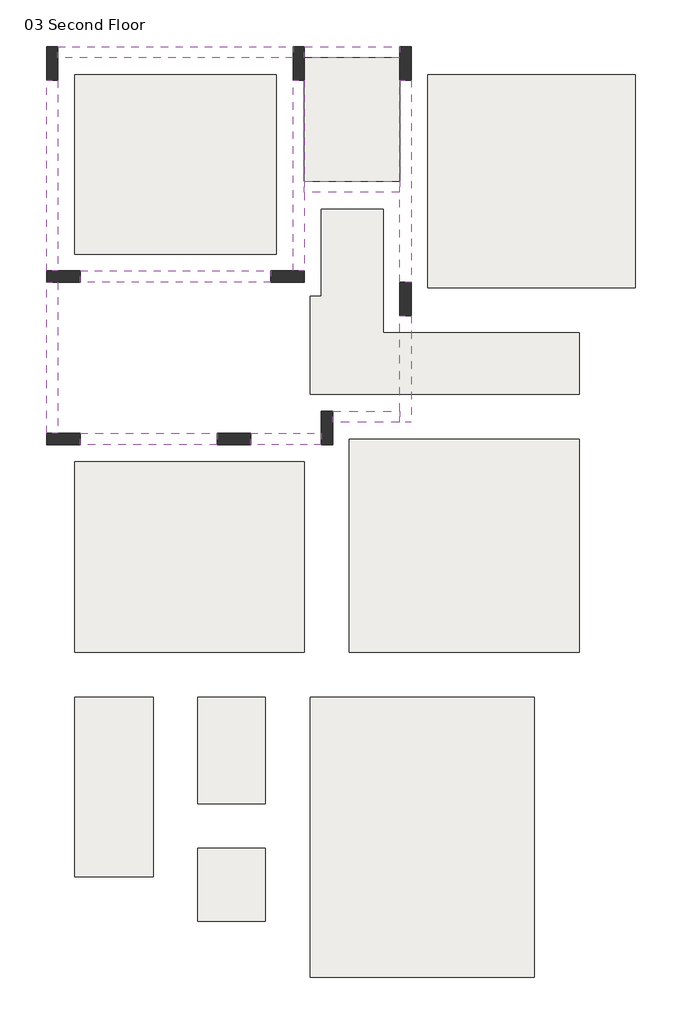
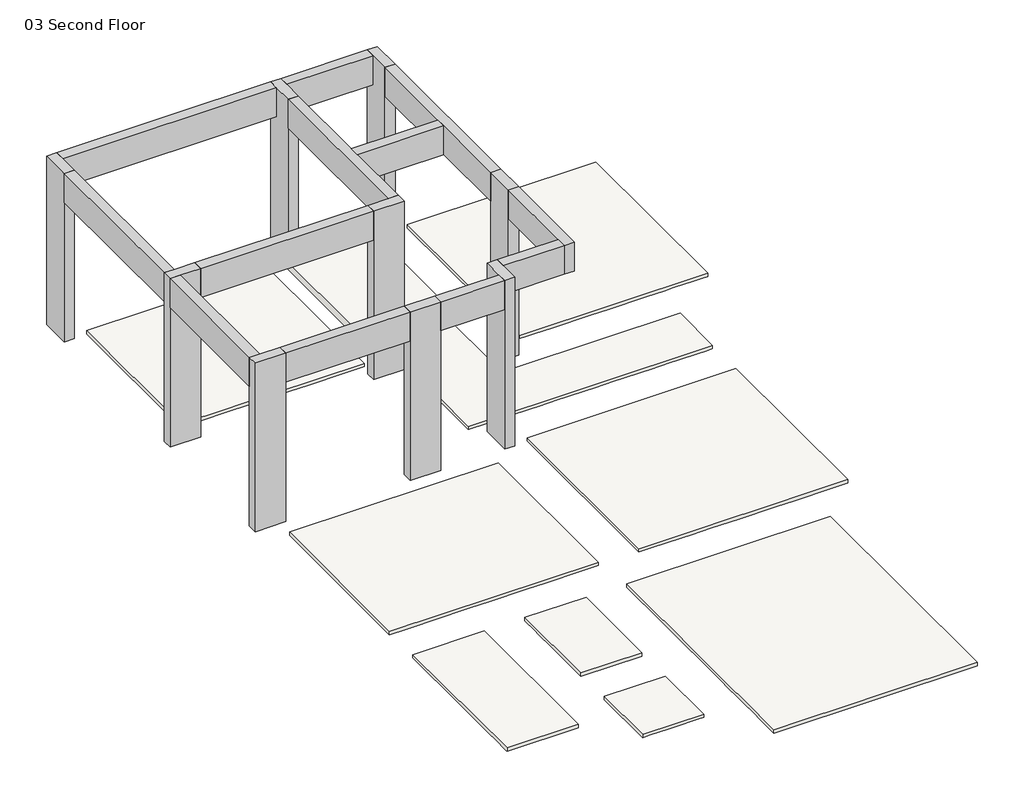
# One storey: 12 beams, 10 slabs, 9 columns.
"""IFC4 building model written with IfcOpenShell, lengths in millimetres."""

from ifc_helpers import new_model, si_unit, frame, origin, place, context, project, spatial, polyline, outline, extrude, faceted_brep, element, save

model = new_model("IFC4")

# Units and contexts
model_context = context("Model", 3, world=origin())
ifc_project = project(units=[si_unit("LENGTHUNIT", "METRE", prefix="MILLI")], contexts=[model_context])

# Site, building, storey
site = spatial("IfcSite", under=ifc_project)
building = spatial("IfcBuilding", under=site)
storey = spatial("IfcBuildingStorey", under=building, Name="03 Second Floor", Elevation=7000.0)

# Beams
placement = place(None, origin())
element("IfcBeam", 1, ObjectType="M_Concrete-Rectangular Beam : DB1- 20 x 60 cm", at=placement, inside=storey, context=model_context, shape_type="Brep", body=[
    faceted_brep([(-1201.9262989, 8244.9958345, 10500.0), (-1201.9262989, 8044.9958345, 10500.0), (498.0737011, 8044.9958345, 10500.0), (498.0737011, 8244.9958345, 10500.0), (-1201.9262989, 8244.9958345, 9900.0), (498.0737011, 8244.9958345, 9900.0), (-1201.9262989, 8044.9958345, 9900.0), (498.0737011, 8044.9958345, 9900.0), (-1201.9262989, 8044.9958345, 10350.0), (498.0737011, 8044.9958345, 10350.0)], [[[0, 1, 2, 3]], [[4, 0, 3, 5]], [[6, 4, 5, 7]], [[1, 8, 6, 7, 9, 2]], [[1, 0, 4, 6, 8]], [[3, 2, 9, 7, 5]]]),
])
element("IfcBeam", 2, ObjectType="M_Concrete-Rectangular Beam : DB1- 20 x 60 cm", at=placement, inside=storey, context=model_context, shape_type="Brep", body=[
    faceted_brep([(-5601.9262989, 8244.9958345, 10500.0), (-5601.9262989, 8044.9958345, 10500.0), (-1401.9262989, 8044.9958345, 10500.0), (-1401.9262989, 8244.9958345, 10500.0), (-5601.9262989, 8244.9958345, 9900.0), (-1401.9262989, 8244.9958345, 9900.0), (-5601.9262989, 8044.9958345, 9900.0), (-1401.9262989, 8044.9958345, 9900.0), (-5601.9262989, 8044.9958345, 10350.0), (-1401.9262989, 8044.9958345, 10350.0)], [[[0, 1, 2, 3]], [[4, 0, 3, 5]], [[6, 4, 5, 7]], [[1, 8, 6, 7, 9, 2]], [[1, 0, 4, 6, 8]], [[3, 2, 9, 7, 5]]]),
])
element("IfcBeam", 3, ObjectType="M_Concrete-Rectangular Beam : DB1- 20 x 60 cm", at=placement, inside=storey, context=model_context, shape_type="Brep", body=[
    faceted_brep([(-5601.9262989, 7644.9958345, 10500.0), (-5801.9262989, 7644.9958345, 10500.0), (-5801.9262989, 4244.9958345, 10500.0), (-5601.9262989, 4244.9958345, 10500.0), (-5801.9262989, 7644.9958345, 9900.0), (-5801.9262989, 4244.9958345, 9900.0), (-5601.9262989, 7644.9958345, 9900.0), (-5601.9262989, 4244.9958345, 9900.0), (-5601.9262989, 4244.9958345, 10350.0)], [[[0, 1, 2, 3]], [[1, 4, 5, 2]], [[4, 6, 7, 5]], [[6, 0, 3, 8, 7]], [[1, 0, 6, 4]], [[3, 2, 5, 7, 8]]]),
])
element("IfcBeam", 4, ObjectType="M_Concrete-Rectangular Beam : DB1- 20 x 60 cm", at=placement, inside=storey, context=model_context, shape_type="Brep", body=[
    faceted_brep([(-1801.9262989, 4044.9958345, 10500.0), (-1801.9262989, 4244.9958345, 10500.0), (-5201.9262989, 4244.9958345, 10500.0), (-5201.9262989, 4044.9958345, 10500.0), (-5201.9262989, 4044.9958345, 10350.0), (-5201.9262989, 4044.9958345, 9900.0), (-1801.9262989, 4044.9958345, 9900.0), (-1801.9262989, 4044.9958345, 10350.0), (-1801.9262989, 4244.9958345, 9900.0), (-5201.9262989, 4244.9958345, 9900.0)], [[[0, 1, 2, 3]], [[0, 3, 4, 5, 6, 7]], [[8, 6, 5, 9]], [[1, 8, 9, 2]], [[1, 0, 7, 6, 8]], [[3, 2, 9, 5, 4]]]),
])
element("IfcBeam", 5, ObjectType="M_Concrete-Rectangular Beam : DB1- 20 x 60 cm", at=placement, inside=storey, context=model_context, shape_type="SweptSolid", body=[
    extrude(outline(polyline([(-5201.9262989, 1144.9958345), (-5201.9262989, 1344.9958345), (-2759.8125017, 1344.9958345), (-2759.8125017, 1144.9958345), (-5201.9262989, 1144.9958345)])), frame((0.0, 0.0, 9900.0), z_axis=(0.0, 0.0, 1.0), x_axis=(1.0, 0.0, 0.0)), (0.0, 0.0, 1.0), 600.0),
])
element("IfcBeam", 6, ObjectType="M_Concrete-Rectangular Beam : DB1- 20 x 60 cm", at=placement, inside=storey, context=model_context, shape_type="Brep", body=[
    faceted_brep([(-2159.8125017, 1344.9958345, 10500.0), (-2159.8125017, 1144.9958345, 10500.0), (-901.9262989, 1144.9958345, 10500.0), (-901.9262989, 1344.9958345, 10500.0), (-2159.8125017, 1144.9958345, 9900.0), (-901.9262989, 1144.9958345, 9900.0), (-2159.8125017, 1344.9958345, 9900.0), (-901.9262989, 1344.9958345, 9900.0), (-901.9262989, 1344.9958345, 10350.0)], [[[0, 1, 2, 3]], [[1, 4, 5, 2]], [[4, 6, 7, 5]], [[6, 0, 3, 8, 7]], [[1, 0, 6, 4]], [[3, 2, 5, 7, 8]]]),
])
element("IfcBeam", 7, ObjectType="M_Concrete-Rectangular Beam : DB1- 20 x 60 cm", at=placement, inside=storey, context=model_context, shape_type="Brep", body=[
    faceted_brep([(-5601.9262989, 4044.9958345, 10500.0), (-5801.9262989, 4044.9958345, 10500.0), (-5801.9262989, 1344.9958345, 10500.0), (-5601.9262989, 1344.9958345, 10500.0), (-5801.9262989, 4044.9958345, 9900.0), (-5801.9262989, 1344.9958345, 9900.0), (-5601.9262989, 4044.9958345, 9900.0), (-5601.9262989, 1344.9958345, 9900.0), (-5601.9262989, 4044.9958345, 10350.0), (-5601.9262989, 1344.9958345, 10350.0)], [[[0, 1, 2, 3]], [[1, 4, 5, 2]], [[4, 6, 7, 5]], [[6, 8, 0, 3, 9, 7]], [[1, 0, 8, 6, 4]], [[3, 2, 5, 7, 9]]]),
])
element("IfcBeam", 8, ObjectType="M_Concrete-Rectangular Beam : DB1- 20 x 60 cm", at=placement, inside=storey, context=model_context, shape_type="Brep", body=[
    faceted_brep([(-1201.9262989, 5844.9958345, 10500.0), (-1201.9262989, 5644.9958345, 10500.0), (498.0737011, 5644.9958345, 10500.0), (498.0737011, 5844.9958345, 10500.0), (-1201.9262989, 5844.9958345, 9900.0), (-1201.9262989, 5844.9958345, 10350.0), (498.0737011, 5844.9958345, 10350.0), (498.0737011, 5844.9958345, 9900.0), (-1201.9262989, 5644.9958345, 9900.0), (498.0737011, 5644.9958345, 9900.0), (-1201.9262989, 5644.9958345, 10350.0), (498.0737011, 5644.9958345, 10350.0)], [[[0, 1, 2, 3]], [[4, 5, 0, 3, 6, 7]], [[8, 4, 7, 9]], [[1, 10, 8, 9, 11, 2]], [[1, 0, 5, 4, 8, 10]], [[3, 2, 11, 9, 7, 6]]]),
])
element("IfcBeam", 9, ObjectType="M_Concrete-Rectangular Beam : DB2- 20 x 60 cm", at=placement, inside=storey, context=model_context, shape_type="Brep", body=[
    faceted_brep([(-1201.9262989, 7644.9958345, 10500.0), (-1401.9262989, 7644.9958345, 10500.0), (-1401.9262989, 4244.9958345, 10500.0), (-1201.9262989, 4244.9958345, 10500.0), (-1201.9262989, 5644.9958345, 10500.0), (-1201.9262989, 5844.9958345, 10500.0), (-1401.9262989, 7644.9958345, 9900.0), (-1401.9262989, 4244.9958345, 9900.0), (-1401.9262989, 4244.9958345, 10350.0), (-1201.9262989, 7644.9958345, 9900.0), (-1201.9262989, 5844.9958345, 9900.0), (-1201.9262989, 5644.9958345, 9900.0), (-1201.9262989, 4244.9958345, 9900.0), (-1201.9262989, 4244.9958345, 10350.0)], [[[0, 1, 2, 3, 4, 5]], [[1, 6, 7, 8, 2]], [[6, 9, 10, 11, 12, 7]], [[9, 0, 5, 4, 3, 13, 12, 11, 10]], [[1, 0, 9, 6]], [[3, 2, 8, 7, 12, 13]]]),
])
element("IfcBeam", 10, ObjectType="M_Concrete-Rectangular Beam : DB2- 20 x 60 cm", at=placement, inside=storey, context=model_context, shape_type="Brep", body=[
    faceted_brep([(698.0737011, 7644.9958345, 10500.0), (498.0737011, 7644.9958345, 10500.0), (498.0737011, 5844.9958345, 10500.0), (498.0737011, 5644.9958345, 10500.0), (498.0737011, 4044.9958345, 10500.0), (698.0737011, 4044.9958345, 10500.0), (498.0737011, 7644.9958345, 9900.0), (498.0737011, 5844.9958345, 9900.0), (498.0737011, 5644.9958345, 9900.0), (498.0737011, 4044.9958345, 9900.0), (698.0737011, 7644.9958345, 9900.0), (698.0737011, 4044.9958345, 9900.0)], [[[0, 1, 2, 3, 4, 5]], [[1, 6, 7, 8, 9, 4, 3, 2]], [[6, 10, 11, 9, 8, 7]], [[10, 0, 5, 11]], [[1, 0, 10, 6]], [[5, 4, 9, 11]]]),
])
element("IfcBeam", 11, ObjectType="M_Concrete-Rectangular Beam : DB2- 20 x 60 cm", at=placement, inside=storey, context=model_context, shape_type="Brep", body=[
    faceted_brep([(498.0737011, 1544.9958345, 10500.0), (698.0737011, 1544.9958345, 10500.0), (698.0737011, 3444.9958345, 10500.0), (498.0737011, 3444.9958345, 10500.0), (498.0737011, 1744.9958345, 10500.0), (498.0737011, 1544.9958345, 9900.0), (498.0737011, 3444.9958345, 9900.0), (498.0737011, 1744.9958345, 9900.0), (698.0737011, 1544.9958345, 9900.0), (698.0737011, 3444.9958345, 9900.0)], [[[0, 1, 2, 3, 4]], [[5, 0, 4, 3, 6, 7]], [[8, 5, 7, 6, 9]], [[1, 8, 9, 2]], [[3, 2, 9, 6]], [[1, 0, 5, 8]]]),
])
element("IfcBeam", 12, ObjectType="M_Concrete-Rectangular Beam : DBC- 20 x 60 cm", at=placement, inside=storey, context=model_context, shape_type="Brep", body=[
    faceted_brep([(-701.9262989, 1744.9958345, 10500.0), (-701.9262989, 1544.9958345, 10500.0), (498.0737011, 1544.9958345, 10500.0), (498.0737011, 1744.9958345, 10500.0), (-701.9262989, 1544.9958345, 9900.0), (498.0737011, 1544.9958345, 9900.0), (-701.9262989, 1744.9958345, 9900.0), (498.0737011, 1744.9958345, 9900.0), (498.0737011, 1744.9958345, 10350.0), (-701.9262989, 1744.9958345, 10350.0)], [[[0, 1, 2, 3]], [[1, 4, 5, 2]], [[4, 6, 7, 5]], [[0, 3, 8, 7, 6, 9]], [[1, 0, 9, 6, 4]], [[3, 2, 5, 7, 8]]]),
])

# Columns
element("IfcColumn", 13, ObjectType="M_Concrete-Rectangular-Column : 20 x 60 cm", at=placement, inside=storey, context=model_context, shape_type="Brep", body=[
    faceted_brep([(-5601.9262989, 8244.9958345, 7000.0), (-5601.9262989, 7644.9958345, 7000.0), (-5801.9262989, 7644.9958345, 7000.0), (-5801.9262989, 8244.9958345, 7000.0), (-5601.9262989, 8244.9958345, 10500.0), (-5601.9262989, 8044.9958345, 10500.0), (-5601.9262989, 7644.9958345, 10500.0), (-5801.9262989, 7644.9958345, 10500.0), (-5801.9262989, 8244.9958345, 10500.0)], [[[0, 1, 2, 3]], [[4, 5, 6, 1, 0]], [[6, 7, 2, 1]], [[7, 8, 3, 2]], [[8, 4, 0, 3]], [[4, 8, 7, 6, 5]]]),
])
element("IfcColumn", 14, ObjectType="M_Concrete-Rectangular-Column : 20 x 60 cm", at=placement, inside=storey, context=model_context, shape_type="Brep", body=[
    faceted_brep([(-1201.9262989, 8244.9958345, 7000.0), (-1201.9262989, 7644.9958345, 7000.0), (-1401.9262989, 7644.9958345, 7000.0), (-1401.9262989, 8244.9958345, 7000.0), (-1201.9262989, 8244.9958345, 10500.0), (-1201.9262989, 8044.9958345, 10500.0), (-1201.9262989, 7644.9958345, 10500.0), (-1401.9262989, 7644.9958345, 10500.0), (-1401.9262989, 8044.9958345, 10500.0), (-1401.9262989, 8244.9958345, 10500.0)], [[[0, 1, 2, 3]], [[4, 5, 6, 1, 0]], [[6, 7, 2, 1]], [[7, 8, 9, 3, 2]], [[9, 4, 0, 3]], [[4, 9, 8, 7, 6, 5]]]),
])
element("IfcColumn", 15, ObjectType="M_Concrete-Rectangular-Column : 20 x 60 cm", at=placement, inside=storey, context=model_context, shape_type="Brep", body=[
    faceted_brep([(698.0737011, 8244.9958345, 7000.0), (698.0737011, 7644.9958345, 7000.0), (498.0737011, 7644.9958345, 7000.0), (498.0737011, 8244.9958345, 7000.0), (698.0737011, 8244.9958345, 10500.0), (698.0737011, 7644.9958345, 10500.0), (498.0737011, 7644.9958345, 10500.0), (498.0737011, 8044.9958345, 10500.0), (498.0737011, 8244.9958345, 10500.0)], [[[0, 1, 2, 3]], [[4, 5, 1, 0]], [[5, 6, 2, 1]], [[6, 7, 8, 3, 2]], [[8, 4, 0, 3]], [[4, 8, 7, 6, 5]]]),
])
element("IfcColumn", 16, ObjectType="M_Concrete-Rectangular-Column : 20 x 60 cm", at=placement, inside=storey, context=model_context, shape_type="SweptSolid", body=[
    extrude(outline(polyline([(498.0737011, 3444.9958345), (498.0737011, 4044.9958345), (698.0737011, 4044.9958345), (698.0737011, 3444.9958345), (498.0737011, 3444.9958345)])), frame((0.0, 0.0, 7000.0), z_axis=(0.0, 0.0, 1.0), x_axis=(1.0, 0.0, 0.0)), (0.0, 0.0, 1.0), 3500.0),
])
element("IfcColumn", 17, ObjectType="M_Concrete-Rectangular-Column : 20 x 60 cm", at=placement, inside=storey, context=model_context, shape_type="Brep", body=[
    faceted_brep([(-1201.9262989, 4044.9958345, 7000.0), (-1801.9262989, 4044.9958345, 7000.0), (-1801.9262989, 4244.9958345, 7000.0), (-1201.9262989, 4244.9958345, 7000.0), (-1201.9262989, 4044.9958345, 10350.0), (-1201.9262989, 4044.9958345, 10500.0), (-1801.9262989, 4044.9958345, 10500.0), (-1801.9262989, 4044.9958345, 10350.0), (-1801.9262989, 4244.9958345, 10500.0), (-1401.9262989, 4244.9958345, 10500.0), (-1201.9262989, 4244.9958345, 10500.0), (-1201.9262989, 4244.9958345, 10350.0)], [[[0, 1, 2, 3]], [[1, 0, 4, 5, 6, 7]], [[2, 1, 7, 6, 8]], [[3, 2, 8, 9, 10, 11]], [[0, 3, 11, 10, 5, 4]], [[6, 5, 10, 9, 8]]]),
])
element("IfcColumn", 18, ObjectType="M_Concrete-Rectangular-Column : 20 x 60 cm", at=placement, inside=storey, context=model_context, shape_type="Brep", body=[
    faceted_brep([(-5201.9262989, 4044.9958345, 7000.0), (-5801.9262989, 4044.9958345, 7000.0), (-5801.9262989, 4244.9958345, 7000.0), (-5201.9262989, 4244.9958345, 7000.0), (-5201.9262989, 4044.9958345, 10350.0), (-5201.9262989, 4044.9958345, 10500.0), (-5601.9262989, 4044.9958345, 10500.0), (-5801.9262989, 4044.9958345, 10500.0), (-5801.9262989, 4244.9958345, 10500.0), (-5601.9262989, 4244.9958345, 10500.0), (-5201.9262989, 4244.9958345, 10500.0)], [[[0, 1, 2, 3]], [[1, 0, 4, 5, 6, 7]], [[2, 1, 7, 8]], [[3, 2, 8, 9, 10]], [[0, 3, 10, 5, 4]], [[8, 7, 6, 5, 10, 9]]]),
])
element("IfcColumn", 19, ObjectType="M_Concrete-Rectangular-Column : 20 x 60 cm", at=placement, inside=storey, context=model_context, shape_type="Brep", body=[
    faceted_brep([(-5201.9262989, 1144.9958345, 7000.0), (-5801.9262989, 1144.9958345, 7000.0), (-5801.9262989, 1344.9958345, 7000.0), (-5201.9262989, 1344.9958345, 7000.0), (-5201.9262989, 1144.9958345, 10500.0), (-5801.9262989, 1144.9958345, 10500.0), (-5801.9262989, 1344.9958345, 10500.0), (-5601.9262989, 1344.9958345, 10500.0), (-5201.9262989, 1344.9958345, 10500.0)], [[[0, 1, 2, 3]], [[4, 5, 1, 0]], [[5, 6, 2, 1]], [[6, 7, 8, 3, 2]], [[8, 4, 0, 3]], [[4, 8, 7, 6, 5]]]),
])
element("IfcColumn", 20, ObjectType="M_Concrete-Rectangular-Column : 20 x 60 cm", at=placement, inside=storey, context=model_context, shape_type="SweptSolid", body=[
    extrude(outline(polyline([(-2159.8125017, 1144.9958345), (-2759.8125017, 1144.9958345), (-2759.8125017, 1344.9958345), (-2159.8125017, 1344.9958345), (-2159.8125017, 1144.9958345)])), frame((0.0, 0.0, 7000.0), z_axis=(0.0, 0.0, 1.0), x_axis=(1.0, 0.0, 0.0)), (0.0, 0.0, 1.0), 3500.0),
])
element("IfcColumn", 21, ObjectType="M_Concrete-Rectangular-Column : 20 x 60 cm", at=placement, inside=storey, context=model_context, shape_type="Brep", body=[
    faceted_brep([(-701.9262989, 1744.9958345, 7000.0), (-701.9262989, 1144.9958345, 7000.0), (-901.9262989, 1144.9958345, 7000.0), (-901.9262989, 1744.9958345, 7000.0), (-701.9262989, 1744.9958345, 10350.0), (-701.9262989, 1744.9958345, 10500.0), (-701.9262989, 1144.9958345, 10500.0), (-901.9262989, 1144.9958345, 10500.0), (-901.9262989, 1344.9958345, 10500.0), (-901.9262989, 1744.9958345, 10500.0), (-901.9262989, 1744.9958345, 10350.0)], [[[0, 1, 2, 3]], [[1, 0, 4, 5, 6]], [[2, 1, 6, 7]], [[3, 2, 7, 8, 9, 10]], [[0, 3, 10, 9, 5, 4]], [[6, 5, 9, 8, 7]]]),
])

# Slabs
element("IfcSlab", 22, ObjectType="Generic 15 cm", at=placement, inside=storey, context=model_context, shape_type="SweptSolid", body=[
    extrude(outline(polyline([(-1201.9262989, 8044.9958345), (498.0737011, 8044.9958345), (498.0737011, 5844.9958345), (-1201.9262989, 5844.9958345), (-1201.9262989, 8044.9958345)])), frame((0.0, 0.0, 6680.0), z_axis=(0.0, 0.0, 1.0), x_axis=(1.0, 0.0, 0.0)), (0.0, 0.0, 1.0), 150.0),
])
element("IfcSlab", 23, ObjectType="Generic 7 cm", at=placement, inside=storey, context=model_context, shape_type="Brep", body=[
    faceted_brep([(-5301.9262989, 7744.9958345, 6930.0), (-4976.9262989, 7744.9958345, 6930.0), (-4826.9262989, 7744.9958345, 6930.0), (-4426.9262989, 7744.9958345, 6930.0), (-4276.9262989, 7744.9958345, 6930.0), (-3876.9262989, 7744.9958345, 6930.0), (-3726.9262989, 7744.9958345, 6930.0), (-3326.9262989, 7744.9958345, 6930.0), (-3176.9262989, 7744.9958345, 6930.0), (-2776.9262989, 7744.9958345, 6930.0), (-2626.9262989, 7744.9958345, 6930.0), (-2226.9262989, 7744.9958345, 6930.0), (-2076.9262989, 7744.9958345, 6930.0), (-1701.9262989, 7744.9958345, 6930.0), (-1701.9262989, 4544.9958345, 6930.0), (-2076.9262989, 4544.9958345, 6930.0), (-2226.9262989, 4544.9958345, 6930.0), (-2626.9262989, 4544.9958345, 6930.0), (-2776.9262989, 4544.9958345, 6930.0), (-3176.9262989, 4544.9958345, 6930.0), (-3326.9262989, 4544.9958345, 6930.0), (-3726.9262989, 4544.9958345, 6930.0), (-3876.9262989, 4544.9958345, 6930.0), (-4276.9262989, 4544.9958345, 6930.0), (-4426.9262989, 4544.9958345, 6930.0), (-4826.9262989, 4544.9958345, 6930.0), (-4976.9262989, 4544.9958345, 6930.0), (-5301.9262989, 4544.9958345, 6930.0), (-5301.9262989, 7744.9958345, 7000.0), (-5301.9262989, 4544.9958345, 7000.0), (-1701.9262989, 4544.9958345, 7000.0), (-1701.9262989, 7744.9958345, 7000.0)], [[[0, 1, 2, 3, 4, 5, 6, 7, 8, 9, 10, 11, 12, 13, 14, 15, 16, 17, 18, 19, 20, 21, 22, 23, 24, 25, 26, 27]], [[28, 29, 30, 31]], [[13, 12, 11, 10, 9, 8, 7, 6, 5, 4, 3, 2, 1, 0, 28, 31]], [[14, 13, 31, 30]], [[27, 26, 25, 24, 23, 22, 21, 20, 19, 18, 17, 16, 15, 14, 30, 29]], [[0, 27, 29, 28]]]),
])
element("IfcSlab", 24, ObjectType="Generic 7 cm", at=placement, inside=storey, context=model_context, shape_type="Brep", body=[
    faceted_brep([(998.0737011, 7744.9958345, 6930.0), (1123.0737011, 7744.9958345, 6930.0), (1273.0737011, 7744.9958345, 6930.0), (1673.0737011, 7744.9958345, 6930.0), (1823.0737011, 7744.9958345, 6930.0), (2223.0737011, 7744.9958345, 6930.0), (2373.0737011, 7744.9958345, 6930.0), (2773.0737011, 7744.9958345, 6930.0), (2923.0737011, 7744.9958345, 6930.0), (3323.0737011, 7744.9958345, 6930.0), (3473.0737011, 7744.9958345, 6930.0), (3873.0737011, 7744.9958345, 6930.0), (4023.0737011, 7744.9958345, 6930.0), (4423.0737011, 7744.9958345, 6930.0), (4573.0737011, 7744.9958345, 6930.0), (4698.0737011, 7744.9958345, 6930.0), (4698.0737011, 3944.9958345, 6930.0), (4573.0737011, 3944.9958345, 6930.0), (4423.0737011, 3944.9958345, 6930.0), (4023.0737011, 3944.9958345, 6930.0), (3873.0737011, 3944.9958345, 6930.0), (3473.0737011, 3944.9958345, 6930.0), (3323.0737011, 3944.9958345, 6930.0), (2923.0737011, 3944.9958345, 6930.0), (2773.0737011, 3944.9958345, 6930.0), (2373.0737011, 3944.9958345, 6930.0), (2223.0737011, 3944.9958345, 6930.0), (1823.0737011, 3944.9958345, 6930.0), (1673.0737011, 3944.9958345, 6930.0), (1273.0737011, 3944.9958345, 6930.0), (1123.0737011, 3944.9958345, 6930.0), (998.0737011, 3944.9958345, 6930.0), (998.0737011, 7744.9958345, 7000.0), (998.0737011, 3944.9958345, 7000.0), (4698.0737011, 3944.9958345, 7000.0), (4698.0737011, 7744.9958345, 7000.0)], [[[0, 1, 2, 3, 4, 5, 6, 7, 8, 9, 10, 11, 12, 13, 14, 15, 16, 17, 18, 19, 20, 21, 22, 23, 24, 25, 26, 27, 28, 29, 30, 31]], [[32, 33, 34, 35]], [[15, 14, 13, 12, 11, 10, 9, 8, 7, 6, 5, 4, 3, 2, 1, 0, 32, 35]], [[16, 15, 35, 34]], [[31, 30, 29, 28, 27, 26, 25, 24, 23, 22, 21, 20, 19, 18, 17, 16, 34, 33]], [[0, 31, 33, 32]]]),
])
element("IfcSlab", 25, ObjectType="Generic 7 cm", at=placement, inside=storey, context=model_context, shape_type="Brep", body=[
    faceted_brep([(-401.9262989, 1244.9958345, 6930.0), (-76.9262989, 1244.9958345, 6930.0), (73.0737011, 1244.9958345, 6930.0), (473.0737011, 1244.9958345, 6930.0), (623.0737011, 1244.9958345, 6930.0), (1023.0737011, 1244.9958345, 6930.0), (1173.0737011, 1244.9958345, 6930.0), (1573.0737011, 1244.9958345, 6930.0), (1723.0737011, 1244.9958345, 6930.0), (2123.0737011, 1244.9958345, 6930.0), (2273.0737011, 1244.9958345, 6930.0), (2673.0737011, 1244.9958345, 6930.0), (2823.0737011, 1244.9958345, 6930.0), (3223.0737011, 1244.9958345, 6930.0), (3373.0737011, 1244.9958345, 6930.0), (3698.0737011, 1244.9958345, 6930.0), (3698.0737011, -2555.0041655, 6930.0), (3373.0737011, -2555.0041655, 6930.0), (3223.0737011, -2555.0041655, 6930.0), (2823.0737011, -2555.0041655, 6930.0), (2673.0737011, -2555.0041655, 6930.0), (2273.0737011, -2555.0041655, 6930.0), (2123.0737011, -2555.0041655, 6930.0), (1723.0737011, -2555.0041655, 6930.0), (1573.0737011, -2555.0041655, 6930.0), (1173.0737011, -2555.0041655, 6930.0), (1023.0737011, -2555.0041655, 6930.0), (623.0737011, -2555.0041655, 6930.0), (473.0737011, -2555.0041655, 6930.0), (73.0737011, -2555.0041655, 6930.0), (-76.9262989, -2555.0041655, 6930.0), (-401.9262989, -2555.0041655, 6930.0), (-401.9262989, 1244.9958345, 7000.0), (-401.9262989, -2555.0041655, 7000.0), (3698.0737011, -2555.0041655, 7000.0), (3698.0737011, 1244.9958345, 7000.0)], [[[0, 1, 2, 3, 4, 5, 6, 7, 8, 9, 10, 11, 12, 13, 14, 15, 16, 17, 18, 19, 20, 21, 22, 23, 24, 25, 26, 27, 28, 29, 30, 31]], [[32, 33, 34, 35]], [[15, 14, 13, 12, 11, 10, 9, 8, 7, 6, 5, 4, 3, 2, 1, 0, 32, 35]], [[16, 15, 35, 34]], [[31, 30, 29, 28, 27, 26, 25, 24, 23, 22, 21, 20, 19, 18, 17, 16, 34, 33]], [[0, 31, 33, 32]]]),
])
element("IfcSlab", 26, ObjectType="Generic 7 cm", at=placement, inside=storey, context=model_context, shape_type="Brep", body=[
    faceted_brep([(-5301.9262989, 844.9958345, 6930.0), (-4976.9262989, 844.9958345, 6930.0), (-4826.9262989, 844.9958345, 6930.0), (-4426.9262989, 844.9958345, 6930.0), (-4276.9262989, 844.9958345, 6930.0), (-3876.9262989, 844.9958345, 6930.0), (-3726.9262989, 844.9958345, 6930.0), (-3326.9262989, 844.9958345, 6930.0), (-3176.9262989, 844.9958345, 6930.0), (-2776.9262989, 844.9958345, 6930.0), (-2626.9262989, 844.9958345, 6930.0), (-2226.9262989, 844.9958345, 6930.0), (-2076.9262989, 844.9958345, 6930.0), (-1676.9262989, 844.9958345, 6930.0), (-1526.9262989, 844.9958345, 6930.0), (-1201.9262989, 844.9958345, 6930.0), (-1201.9262989, -2555.0041655, 6930.0), (-1526.9262989, -2555.0041655, 6930.0), (-1676.9262989, -2555.0041655, 6930.0), (-2076.9262989, -2555.0041655, 6930.0), (-2226.9262989, -2555.0041655, 6930.0), (-2626.9262989, -2555.0041655, 6930.0), (-2776.9262989, -2555.0041655, 6930.0), (-3176.9262989, -2555.0041655, 6930.0), (-3326.9262989, -2555.0041655, 6930.0), (-3726.9262989, -2555.0041655, 6930.0), (-3876.9262989, -2555.0041655, 6930.0), (-4276.9262989, -2555.0041655, 6930.0), (-4426.9262989, -2555.0041655, 6930.0), (-4826.9262989, -2555.0041655, 6930.0), (-4976.9262989, -2555.0041655, 6930.0), (-5301.9262989, -2555.0041655, 6930.0), (-5301.9262989, 844.9958345, 7000.0), (-5301.9262989, -2555.0041655, 7000.0), (-1201.9262989, -2555.0041655, 7000.0), (-1201.9262989, 844.9958345, 7000.0)], [[[0, 1, 2, 3, 4, 5, 6, 7, 8, 9, 10, 11, 12, 13, 14, 15, 16, 17, 18, 19, 20, 21, 22, 23, 24, 25, 26, 27, 28, 29, 30, 31]], [[32, 33, 34, 35]], [[15, 14, 13, 12, 11, 10, 9, 8, 7, 6, 5, 4, 3, 2, 1, 0, 32, 35]], [[16, 15, 35, 34]], [[31, 30, 29, 28, 27, 26, 25, 24, 23, 22, 21, 20, 19, 18, 17, 16, 34, 33]], [[0, 31, 33, 32]]]),
])
element("IfcSlab", 27, ObjectType="Generic 7 cm", at=placement, inside=storey, context=model_context, shape_type="Brep", body=[
    faceted_brep([(-3101.9262989, -3355.0041655, 6930.0), (-1901.9262989, -3355.0041655, 6930.0), (-1901.9262989, -3680.0041655, 6930.0), (-1901.9262989, -3830.0041655, 6930.0), (-1901.9262989, -4230.0041655, 6930.0), (-1901.9262989, -4380.0041655, 6930.0), (-1901.9262989, -4780.0041655, 6930.0), (-1901.9262989, -4930.0041655, 6930.0), (-1901.9262989, -5255.0041655, 6930.0), (-3101.9262989, -5255.0041655, 6930.0), (-3101.9262989, -4930.0041655, 6930.0), (-3101.9262989, -4780.0041655, 6930.0), (-3101.9262989, -4380.0041655, 6930.0), (-3101.9262989, -4230.0041655, 6930.0), (-3101.9262989, -3830.0041655, 6930.0), (-3101.9262989, -3680.0041655, 6930.0), (-3101.9262989, -3355.0041655, 7000.0), (-3101.9262989, -5255.0041655, 7000.0), (-1901.9262989, -5255.0041655, 7000.0), (-1901.9262989, -3355.0041655, 7000.0)], [[[0, 1, 2, 3, 4, 5, 6, 7, 8, 9, 10, 11, 12, 13, 14, 15]], [[16, 17, 18, 19]], [[1, 0, 16, 19]], [[8, 7, 6, 5, 4, 3, 2, 1, 19, 18]], [[9, 8, 18, 17]], [[0, 15, 14, 13, 12, 11, 10, 9, 17, 16]]]),
])
element("IfcSlab", 28, ObjectType="Generic 7 cm", at=placement, inside=storey, context=model_context, shape_type="Brep", body=[
    faceted_brep([(-1101.9262989, -3355.0041655, 6930.0), (2898.0737011, -3355.0041655, 6930.0), (2898.0737011, -3580.0041655, 6930.0), (2898.0737011, -3730.0041655, 6930.0), (2898.0737011, -4130.0041655, 6930.0), (2898.0737011, -4280.0041655, 6930.0), (2898.0737011, -4680.0041655, 6930.0), (2898.0737011, -4830.0041655, 6930.0), (2898.0737011, -5230.0041655, 6930.0), (2898.0737011, -5380.0041655, 6930.0), (2898.0737011, -5780.0041655, 6930.0), (2898.0737011, -5930.0041655, 6930.0), (2898.0737011, -6330.0041655, 6930.0), (2898.0737011, -6480.0041655, 6930.0), (2898.0737011, -6880.0041655, 6930.0), (2898.0737011, -7030.0041655, 6930.0), (2898.0737011, -7430.0041655, 6930.0), (2898.0737011, -7580.0041655, 6930.0), (2898.0737011, -7980.0041655, 6930.0), (2898.0737011, -8130.0041655, 6930.0), (2898.0737011, -8355.0041655, 6930.0), (-1101.9262989, -8355.0041655, 6930.0), (-1101.9262989, -8130.0041655, 6930.0), (-1101.9262989, -7980.0041655, 6930.0), (-1101.9262989, -7580.0041655, 6930.0), (-1101.9262989, -7430.0041655, 6930.0), (-1101.9262989, -7030.0041655, 6930.0), (-1101.9262989, -6880.0041655, 6930.0), (-1101.9262989, -6480.0041655, 6930.0), (-1101.9262989, -6330.0041655, 6930.0), (-1101.9262989, -5930.0041655, 6930.0), (-1101.9262989, -5780.0041655, 6930.0), (-1101.9262989, -5380.0041655, 6930.0), (-1101.9262989, -5230.0041655, 6930.0), (-1101.9262989, -4830.0041655, 6930.0), (-1101.9262989, -4680.0041655, 6930.0), (-1101.9262989, -4280.0041655, 6930.0), (-1101.9262989, -4130.0041655, 6930.0), (-1101.9262989, -3730.0041655, 6930.0), (-1101.9262989, -3580.0041655, 6930.0), (-1101.9262989, -3355.0041655, 7000.0), (-1101.9262989, -8355.0041655, 7000.0), (2898.0737011, -8355.0041655, 7000.0), (2898.0737011, -3355.0041655, 7000.0)], [[[0, 1, 2, 3, 4, 5, 6, 7, 8, 9, 10, 11, 12, 13, 14, 15, 16, 17, 18, 19, 20, 21, 22, 23, 24, 25, 26, 27, 28, 29, 30, 31, 32, 33, 34, 35, 36, 37, 38, 39]], [[40, 41, 42, 43]], [[1, 0, 40, 43]], [[20, 19, 18, 17, 16, 15, 14, 13, 12, 11, 10, 9, 8, 7, 6, 5, 4, 3, 2, 1, 43, 42]], [[21, 20, 42, 41]], [[0, 39, 38, 37, 36, 35, 34, 33, 32, 31, 30, 29, 28, 27, 26, 25, 24, 23, 22, 21, 41, 40]]]),
])
element("IfcSlab", 29, ObjectType="Generic 7 cm", at=placement, inside=storey, context=model_context, shape_type="Brep", body=[
    faceted_brep([(-3101.9262989, -6055.0041655, 6930.0), (-2976.9262989, -6055.0041655, 6930.0), (-2576.9262989, -6055.0041655, 6930.0), (-2426.9262989, -6055.0041655, 6930.0), (-2026.9262989, -6055.0041655, 6930.0), (-1901.9262989, -6055.0041655, 6930.0), (-1901.9262989, -7355.0041655, 6930.0), (-2026.9262989, -7355.0041655, 6930.0), (-2426.9262989, -7355.0041655, 6930.0), (-2576.9262989, -7355.0041655, 6930.0), (-2976.9262989, -7355.0041655, 6930.0), (-3101.9262989, -7355.0041655, 6930.0), (-3101.9262989, -6055.0041655, 7000.0), (-3101.9262989, -7355.0041655, 7000.0), (-1901.9262989, -7355.0041655, 7000.0), (-1901.9262989, -6055.0041655, 7000.0)], [[[0, 1, 2, 3, 4, 5, 6, 7, 8, 9, 10, 11]], [[12, 13, 14, 15]], [[5, 4, 3, 2, 1, 0, 12, 15]], [[6, 5, 15, 14]], [[11, 10, 9, 8, 7, 6, 14, 13]], [[0, 11, 13, 12]]]),
])
element("IfcSlab", 30, ObjectType="Generic 7 cm", at=placement, inside=storey, context=model_context, shape_type="Brep", body=[
    faceted_brep([(-901.9262989, 5344.9958345, 6930.0), (-426.9262989, 5344.9958345, 6930.0), (-276.9262989, 5344.9958345, 6930.0), (123.0737011, 5344.9958345, 6930.0), (198.0737011, 5344.9958345, 6930.0), (198.0737011, 3144.9958345, 6930.0), (273.0737011, 3144.9958345, 6930.0), (673.0737011, 3144.9958345, 6930.0), (823.0737011, 3144.9958345, 6930.0), (1223.0737011, 3144.9958345, 6930.0), (1373.0737011, 3144.9958345, 6930.0), (1773.0737011, 3144.9958345, 6930.0), (1923.0737011, 3144.9958345, 6930.0), (2323.0737011, 3144.9958345, 6930.0), (2473.0737011, 3144.9958345, 6930.0), (2873.0737011, 3144.9958345, 6930.0), (3023.0737011, 3144.9958345, 6930.0), (3423.0737011, 3144.9958345, 6930.0), (3573.0737011, 3144.9958345, 6930.0), (3698.0737011, 3144.9958345, 6930.0), (3698.0737011, 2044.9958345, 6930.0), (3573.0737011, 2044.9958345, 6930.0), (3423.0737011, 2044.9958345, 6930.0), (3023.0737011, 2044.9958345, 6930.0), (2873.0737011, 2044.9958345, 6930.0), (2473.0737011, 2044.9958345, 6930.0), (2323.0737011, 2044.9958345, 6930.0), (1923.0737011, 2044.9958345, 6930.0), (1773.0737011, 2044.9958345, 6930.0), (1373.0737011, 2044.9958345, 6930.0), (1223.0737011, 2044.9958345, 6930.0), (823.0737011, 2044.9958345, 6930.0), (673.0737011, 2044.9958345, 6930.0), (273.0737011, 2044.9958345, 6930.0), (123.0737011, 2044.9958345, 6930.0), (-276.9262989, 2044.9958345, 6930.0), (-426.9262989, 2044.9958345, 6930.0), (-826.9262989, 2044.9958345, 6930.0), (-976.9262989, 2044.9958345, 6930.0), (-1101.9262989, 2044.9958345, 6930.0), (-1101.9262989, 3794.9958345, 6930.0), (-976.9262989, 3794.9958345, 6930.0), (-901.9262989, 3794.9958345, 6930.0), (-901.9262989, 5344.9958345, 7000.0), (-901.9262989, 4094.9958345, 7000.0), (-901.9262989, 3794.9958345, 7000.0), (-1101.9262989, 3794.9958345, 7000.0), (-1101.9262989, 2044.9958345, 7000.0), (3698.0737011, 2044.9958345, 7000.0), (3698.0737011, 3144.9958345, 7000.0), (498.0737011, 3144.9958345, 7000.0), (198.0737011, 3144.9958345, 7000.0), (198.0737011, 5344.9958345, 7000.0)], [[[0, 1, 2, 3, 4, 5, 6, 7, 8, 9, 10, 11, 12, 13, 14, 15, 16, 17, 18, 19, 20, 21, 22, 23, 24, 25, 26, 27, 28, 29, 30, 31, 32, 33, 34, 35, 36, 37, 38, 39, 40, 41, 42]], [[43, 44, 45, 46, 47, 48, 49, 50, 51, 52]], [[4, 3, 2, 1, 0, 43, 52]], [[5, 4, 52, 51]], [[19, 18, 17, 16, 15, 14, 13, 12, 11, 10, 9, 8, 7, 6, 5, 51, 50, 49]], [[20, 19, 49, 48]], [[39, 38, 37, 36, 35, 34, 33, 32, 31, 30, 29, 28, 27, 26, 25, 24, 23, 22, 21, 20, 48, 47]], [[40, 39, 47, 46]], [[42, 41, 40, 46, 45]], [[0, 42, 45, 44, 43]]]),
])
element("IfcSlab", 31, ObjectType="Generic 7 cm", at=placement, inside=storey, context=model_context, shape_type="Brep", body=[
    faceted_brep([(-5301.9262989, -6555.0041655, 6930.0), (-5301.9262989, -6530.0041655, 6930.0), (-5301.9262989, -6130.0041655, 6930.0), (-5301.9262989, -5980.0041655, 6930.0), (-5301.9262989, -5580.0041655, 6930.0), (-5301.9262989, -5430.0041655, 6930.0), (-5301.9262989, -5030.0041655, 6930.0), (-5301.9262989, -4880.0041655, 6930.0), (-5301.9262989, -4480.0041655, 6930.0), (-5301.9262989, -4330.0041655, 6930.0), (-5301.9262989, -3930.0041655, 6930.0), (-5301.9262989, -3780.0041655, 6930.0), (-5301.9262989, -3380.0041655, 6930.0), (-5301.9262989, -3355.0041655, 6930.0), (-3901.9262989, -3355.0041655, 6930.0), (-3901.9262989, -3380.0041655, 6930.0), (-3901.9262989, -3780.0041655, 6930.0), (-3901.9262989, -3930.0041655, 6930.0), (-3901.9262989, -4330.0041655, 6930.0), (-3901.9262989, -4480.0041655, 6930.0), (-3901.9262989, -4880.0041655, 6930.0), (-3901.9262989, -5030.0041655, 6930.0), (-3901.9262989, -5430.0041655, 6930.0), (-3901.9262989, -5580.0041655, 6930.0), (-3901.9262989, -5980.0041655, 6930.0), (-3901.9262989, -6130.0041655, 6930.0), (-3901.9262989, -6530.0041655, 6930.0), (-3901.9262989, -6555.0041655, 6930.0), (-5301.9262989, -6555.0041655, 7000.0), (-3901.9262989, -6555.0041655, 7000.0), (-3901.9262989, -3355.0041655, 7000.0), (-5301.9262989, -3355.0041655, 7000.0)], [[[0, 1, 2, 3, 4, 5, 6, 7, 8, 9, 10, 11, 12, 13, 14, 15, 16, 17, 18, 19, 20, 21, 22, 23, 24, 25, 26, 27]], [[28, 29, 30, 31]], [[13, 12, 11, 10, 9, 8, 7, 6, 5, 4, 3, 2, 1, 0, 28, 31]], [[14, 13, 31, 30]], [[27, 26, 25, 24, 23, 22, 21, 20, 19, 18, 17, 16, 15, 14, 30, 29]], [[0, 27, 29, 28]]]),
])

save(model, "model.ifc")
